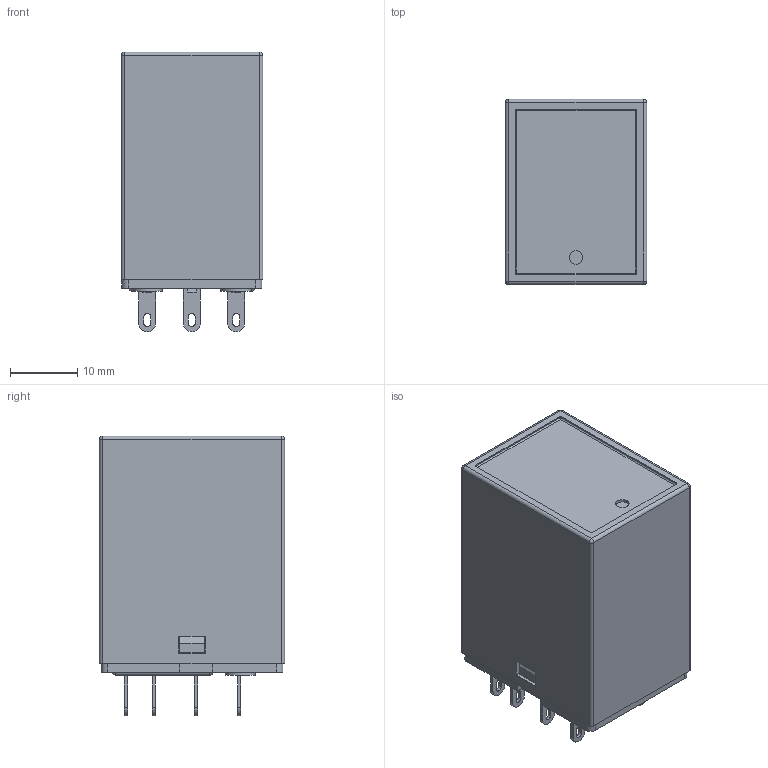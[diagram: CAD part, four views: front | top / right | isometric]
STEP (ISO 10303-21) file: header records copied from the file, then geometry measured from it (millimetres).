
FILE_DESCRIPTION(/* description */ (''),/* implementation_level */ '2;1');
FILE_NAME(/* name */ '18F-3PL.stp',/* time_stamp */ '2025-06-13T14:04:04+08:00',/* author */ (''),/* organization */ (''),/* preprocessor_version */ 'ST-DEVELOPER v11',/* originating_system */ 'SIEMENS UGS NX 6.0',/* authorisation */ '');
FILE_SCHEMA (('CONFIG_CONTROL_DESIGN'));
Length unit declared in the file: millimetre
Products named in the file (1): 18F-3PL
Bounding box: 21 x 27.5 x 41.5 mm (x, y, z)
Volume: 6722 mm3; surface area: 11250.8 mm2
Topology: 21 solids, 21 shells, 1339 faces, 3490 edges, 2298 vertices
Faces by surface type: plane 907, cylinder 406, sphere 16, cone 4, bspline 4, torus 2
Full cylindrical faces by diameter (mm): 1.5 x6, 2 x1, 2.6 x1, 3 x1, 4.5 x2, 6.5 x1
Entity records: 40964 total; most frequent: CARTESIAN_POINT 7160, DIRECTION 6956, ORIENTED_EDGE 6920, EDGE_CURVE 3460, LINE 2636, VECTOR 2636, VERTEX_POINT 2300, AXIS2_PLACEMENT_3D 2160
